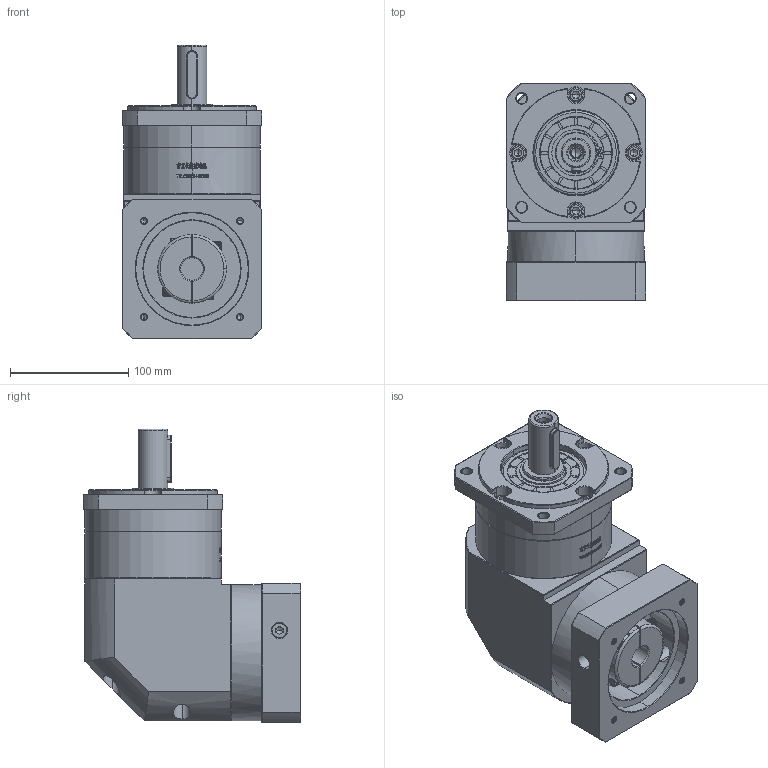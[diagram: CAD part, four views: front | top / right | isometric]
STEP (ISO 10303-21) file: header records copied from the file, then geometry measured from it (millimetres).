
FILE_DESCRIPTION (( 'STEP AP214' ), '1' );
FILE_NAME ('ZFR120A-D25-L1-19-95-115-M6.step', '2023-03-08T08:17:52', ( '' ), ( '' ), 'SwSTEP 2.0', 'SolidWorks 2016', '' );
FILE_SCHEMA (( 'AUTOMOTIVE_DESIGN' ));
Length unit declared in the file: millimetre
Products named in the file (1): ZFR120A-D25-L1-19-95-115-M6
Bounding box: 118 x 183.9 x 248 mm (x, y, z)
Volume: 2799271.3 mm3; surface area: 235769.1 mm2
Topology: 6 solids, 6 shells, 2858 faces, 7637 edges, 4923 vertices
Faces by surface type: plane 1483, bspline 610, cylinder 419, cone 338, torus 8
Entity records: 158171 total; most frequent: CARTESIAN_POINT 61228, ORIENTED_EDGE 15214, DIRECTION 11072, EDGE_CURVE 7607, VERTEX_POINT 4923, VECTOR 4730, LINE 4730, AXIS2_PLACEMENT_3D 3171
